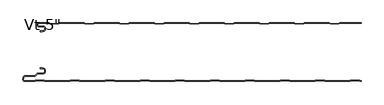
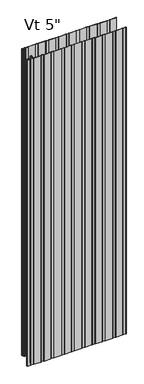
"""IFC4 building model written with IfcOpenShell, lengths in millimetres: plate geometry."""

from ifc_helpers import new_model, si_unit, point, frame, frame_2d, origin, origin_with_axes, place, context, project, spatial, polyline, circle_curve, trimmed, segment, composite_curve, outline, extrude, source, transform, mapped, element, save
from ifc_brep_helpers import plane_surface, cylinder_surface, revolved_surface, advanced_brep


def plate_ce7ed1db(model_context):
    return source(origin(), model_context, "Body", "SolidModel", [
        advanced_brep(
        [(-346.968691, -17.0015202, 2400.0), (-347.9686883, -18.0015234, 2400.0), (-346.968691, -19.0015147, 2400.0), (-342.9684874, -19.0015147, 2400.0), (-342.9684874, -18.0015202, 2400.0), (-340.2762776, -18.0015202, 2400.0), (-336.9762819, -14.7015245, 2400.0), (-336.9762819, -10.3015333, 2400.0), (-340.2762774, -7.0015378, 2400.0), (-350.6962563, -7.0015378, 2400.0), (-352.4662505, -5.2315436, 2400.0), (-352.4662505, -0.9999959, 2400.0), (-327.9659738, -0.9999959, 2400.0), (-326.5803312, -2.200235, 2400.0), (-307.2051649, -2.200235, 2400.0), (-305.819532, -1.0000043, 2400.0), (-251.7661166, -1.0000043, 2400.0), (-250.3804836, -2.200235, 2400.0), (-231.0053173, -2.200235, 2400.0), (-229.6196844, -1.0000043, 2400.0), (-175.566269, -1.0000043, 2400.0), (-174.180636, -2.200235, 2400.0), (-154.8054697, -2.200235, 2400.0), (-153.4198368, -1.0000043, 2400.0), (-99.3664214, -1.0000043, 2400.0), (-97.9807884, -2.200235, 2400.0), (-78.6056221, -2.200235, 2400.0), (-77.2199892, -1.0000043, 2400.0), (-23.1665738, -1.0000043, 2400.0), (-21.7809408, -2.200235, 2400.0), (-2.4057745, -2.200235, 2400.0), (-1.0201416, -1.0000043, 2400.0), (53.0332738, -1.0000043, 2400.0), (54.4189068, -2.200235, 2400.0), (73.7940731, -2.200235, 2400.0), (75.179706, -1.0000043, 2400.0), (129.2331214, -1.0000043, 2400.0), (130.6187544, -2.200235, 2400.0), (149.9939207, -2.200235, 2400.0), (151.3795536, -1.0000043, 2400.0), (205.432969, -1.0000043, 2400.0), (206.818602, -2.200235, 2400.0), (226.1937683, -2.200235, 2400.0), (227.5794012, -1.0000043, 2400.0), (281.6328166, -1.0000043, 2400.0), (283.0184496, -2.200235, 2400.0), (302.3936159, -2.200235, 2400.0), (303.7792488, -1.0000043, 2400.0), (350.4999998, -1.0000043, 2400.0), (350.4999998, -4.3e-06, 2400.0), (303.9284, -4.3e-06, 2400.0), (303.0117831, -0.3417928, 2400.0), (302.0207355, -1.200235, 2400.0), (283.39133, -1.200235, 2400.0), (282.4002824, -0.3417928, 2400.0), (281.4836655, -4.3e-06, 2400.0), (227.7285524, -4.3e-06, 2400.0), (226.8119355, -0.3417928, 2400.0), (225.8208879, -1.200235, 2400.0), (207.1914824, -1.200235, 2400.0), (206.2004348, -0.3417928, 2400.0), (205.2838179, -4.3e-06, 2400.0), (151.5287048, -4.3e-06, 2400.0), (150.6120879, -0.3417928, 2400.0), (149.6210403, -1.200235, 2400.0), (130.9916348, -1.200235, 2400.0), (130.0005872, -0.3417928, 2400.0), (129.0839703, -4.3e-06, 2400.0), (75.3288572, -4.3e-06, 2400.0), (74.4122403, -0.3417928, 2400.0), (73.4211927, -1.200235, 2400.0), (54.7917872, -1.200235, 2400.0), (53.8007396, -0.3417928, 2400.0), (52.8841227, -4.3e-06, 2400.0), (-0.8709904, -4.3e-06, 2400.0), (-1.7876073, -0.3417928, 2400.0), (-2.7786549, -1.200235, 2400.0), (-21.4080604, -1.200235, 2400.0), (-22.399108, -0.3417928, 2400.0), (-23.3157249, -4.3e-06, 2400.0), (-77.070838, -4.3e-06, 2400.0), (-77.9874549, -0.3417928, 2400.0), (-78.9785025, -1.200235, 2400.0), (-97.607908, -1.200235, 2400.0), (-98.5989556, -0.3417928, 2400.0), (-99.5155725, -4.3e-06, 2400.0), (-153.2706856, -4.3e-06, 2400.0), (-154.1873025, -0.3417928, 2400.0), (-155.1783501, -1.200235, 2400.0), (-173.8077556, -1.200235, 2400.0), (-174.7988032, -0.3417928, 2400.0), (-175.7154201, -4.3e-06, 2400.0), (-229.4705332, -4.3e-06, 2400.0), (-230.3871501, -0.3417928, 2400.0), (-231.3781977, -1.200235, 2400.0), (-250.0076032, -1.200235, 2400.0), (-250.9986508, -0.3417928, 2400.0), (-251.9152677, -4.3e-06, 2400.0), (-305.6703808, -4.3e-06, 2400.0), (-306.5869977, -0.3417928, 2400.0), (-307.5780453, -1.200235, 2400.0), (-326.2074508, -1.200235, 2400.0), (-327.1984984, -0.3417928, 2400.0), (-328.1152067, -4.3e-06, 2400.0), (-352.0662543, 4.1e-06, 2400.0), (-353.4662505, -1.3999921, 2400.0), (-353.4662505, -5.2315436, 2400.0), (-350.6962563, -8.0015378, 2400.0), (-340.2762774, -8.0015378, 2400.0), (-337.9762819, -10.3015333, 2400.0), (-337.9762819, -14.7015245, 2400.0), (-340.2762776, -17.0015202, 2400.0), (-346.968691, -17.0015202, 0.0), (-340.2762776, -17.0015202, 0.0), (-337.9762819, -14.7015245, 0.0), (-337.9762819, -10.3015333, 0.0), (-340.2762774, -8.0015378, 0.0), (-350.6962563, -8.0015378, 0.0), (-353.4662505, -5.2315436, 0.0), (-353.4662505, -1.3999921, 0.0), (-352.0662543, 4.1e-06, 0.0), (-328.1151153, 4.1e-06, 0.0), (-327.1984984, -0.3417928, 0.0), (-326.2074508, -1.200235, 0.0), (-307.5780453, -1.200235, 0.0), (-306.5869977, -0.3417928, 0.0), (-305.6703808, -4.3e-06, 0.0), (-251.9152677, -4.3e-06, 0.0), (-250.9986508, -0.3417928, 0.0), (-250.0076032, -1.200235, 0.0), (-231.3781977, -1.200235, 0.0), (-230.3871501, -0.3417928, 0.0), (-229.4705332, -4.3e-06, 0.0), (-175.7154201, -4.3e-06, 0.0), (-174.7988032, -0.3417928, 0.0), (-173.8077556, -1.200235, 0.0), (-155.1783501, -1.200235, 0.0), (-154.1873025, -0.3417928, 0.0), (-153.2706856, -4.3e-06, 0.0), (-99.5155725, -4.3e-06, 0.0), (-98.5989556, -0.3417928, 0.0), (-97.607908, -1.200235, 0.0), (-78.9785025, -1.200235, 0.0), (-77.9874549, -0.3417928, 0.0), (-77.070838, -4.3e-06, 0.0), (-23.3157249, -4.3e-06, 0.0), (-22.399108, -0.3417928, 0.0), (-21.4080604, -1.200235, 0.0), (-2.7786549, -1.200235, 0.0), (-1.7876073, -0.3417928, 0.0), (-0.8709904, -4.3e-06, 0.0), (52.8841227, -4.3e-06, 0.0), (53.8007396, -0.3417928, 0.0), (54.7917872, -1.200235, 0.0), (73.4211927, -1.200235, 0.0), (74.4122403, -0.3417928, 0.0), (75.3288572, -4.3e-06, 0.0), (129.0839703, -4.3e-06, 0.0), (130.0005872, -0.3417928, 0.0), (130.9916348, -1.200235, 0.0), (149.6210403, -1.200235, 0.0), (150.6120879, -0.3417928, 0.0), (151.5287048, -4.3e-06, 0.0), (205.2838179, -4.3e-06, 0.0), (206.2004348, -0.3417928, 0.0), (207.1914824, -1.200235, 0.0), (225.8208879, -1.200235, 0.0), (226.8119355, -0.3417928, 0.0), (227.7285524, -4.3e-06, 0.0), (281.4836655, -4.3e-06, 0.0), (282.4002824, -0.3417928, 0.0), (283.39133, -1.200235, 0.0), (302.0207355, -1.200235, 0.0), (303.0117831, -0.3417928, 0.0), (303.9284, -4.3e-06, 0.0), (350.4999998, -4.3e-06, 0.0), (350.4999998, -1.0000043, 0.0), (303.7792488, -1.0000043, 0.0), (302.3936159, -2.200235, 0.0), (283.0184496, -2.200235, 0.0), (281.6328166, -1.0000043, 0.0), (227.5794012, -1.0000043, 0.0), (226.1937683, -2.200235, 0.0), (206.818602, -2.200235, 0.0), (205.432969, -1.0000043, 0.0), (151.3795536, -1.0000043, 0.0), (149.9939207, -2.200235, 0.0), (130.6187544, -2.200235, 0.0), (129.2331214, -1.0000043, 0.0), (75.179706, -1.0000043, 0.0), (73.7940731, -2.200235, 0.0), (54.4189068, -2.200235, 0.0), (53.0332738, -1.0000043, 0.0), (-1.0201416, -1.0000043, 0.0), (-2.4057745, -2.200235, 0.0), (-21.7809408, -2.200235, 0.0), (-23.1665738, -1.0000043, 0.0), (-77.2199892, -1.0000043, 0.0), (-78.6056221, -2.200235, 0.0), (-97.9807884, -2.200235, 0.0), (-99.3664214, -1.0000043, 0.0), (-153.4198368, -1.0000043, 0.0), (-154.8054697, -2.200235, 0.0), (-174.180636, -2.200235, 0.0), (-175.566269, -1.0000043, 0.0), (-229.6196844, -1.0000043, 0.0), (-231.0053173, -2.200235, 0.0), (-250.3804836, -2.200235, 0.0), (-251.7661166, -1.0000043, 0.0), (-305.819532, -1.0000043, 0.0), (-307.2051649, -2.200235, 0.0), (-326.5803312, -2.200235, 0.0), (-327.9659738, -0.9999959, 0.0), (-352.4662505, -0.9999959, 0.0), (-352.4662505, -5.2315436, 0.0), (-350.6962563, -7.0015378, 0.0), (-340.2762774, -7.0015378, 0.0), (-336.9762819, -10.3015333, 0.0), (-336.9762819, -14.7015245, 0.0), (-340.2762776, -18.0015202, 0.0), (-342.9684874, -18.0015202, 0.0), (-342.9684874, -19.0015147, 0.0), (-346.968691, -19.0015147, 0.0), (-347.9686882, -18.0015235, 0.0)],
        [
            (0, 1, circle_curve(frame((-346.968691, -18.0015175, 2400.0), z_axis=(0.0, 0.0, 1.0), x_axis=(1.0, 0.0, 0.0)), 0.9999973)),
            (1, 2, circle_curve(frame((-346.968691, -18.0015175, 2400.0), z_axis=(0.0, 0.0, 1.0), x_axis=(1.0, 0.0, 0.0)), 0.9999972)),
            (2, 3),
            (3, 4),
            (4, 5),
            (5, 6, circle_curve(frame((-340.2762776, -14.7015245, 2400.0), z_axis=(0.0, 0.0, 1.0), x_axis=(1.0, 0.0, 0.0)), 3.2999957)),
            (6, 7),
            (7, 8, circle_curve(frame((-340.2762774, -10.3015333, 2400.0), z_axis=(0.0, 0.0, 1.0), x_axis=(1.0, 0.0, 0.0)), 3.2999955)),
            (8, 9),
            (9, 10, circle_curve(frame((-350.6962563, -5.2315436, 2400.0), z_axis=(0.0, 0.0, -1.0), x_axis=(1.0, 0.0, 0.0)), 1.7699942)),
            (10, 11),
            (11, 12),
            (12, 13),
            (13, 14),
            (14, 15),
            (15, 16),
            (16, 17),
            (17, 18),
            (18, 19),
            (19, 20),
            (20, 21),
            (21, 22),
            (22, 23),
            (23, 24),
            (24, 25),
            (25, 26),
            (26, 27),
            (27, 28),
            (28, 29),
            (29, 30),
            (30, 31),
            (31, 32),
            (32, 33),
            (33, 34),
            (34, 35),
            (35, 36),
            (36, 37),
            (37, 38),
            (38, 39),
            (39, 40),
            (40, 41),
            (41, 42),
            (42, 43),
            (43, 44),
            (44, 45),
            (45, 46),
            (46, 47),
            (47, 48),
            (48, 49),
            (49, 50),
            (50, 51, circle_curve(frame((303.9284, -1.4000015, 2400.0), z_axis=(0.0, 0.0, 1.0), x_axis=(1.0, 0.0, 0.0)), 1.3999972)),
            (51, 52),
            (52, 53),
            (53, 54),
            (54, 55, circle_curve(frame((281.4836655, -1.4000015, 2400.0), z_axis=(0.0, 0.0, 1.0), x_axis=(1.0, 0.0, 0.0)), 1.3999972)),
            (55, 56),
            (56, 57, circle_curve(frame((227.7285524, -1.4000015, 2400.0), z_axis=(0.0, 0.0, 1.0), x_axis=(1.0, 0.0, 0.0)), 1.3999972)),
            (57, 58),
            (58, 59),
            (59, 60),
            (60, 61, circle_curve(frame((205.2838179, -1.4000015, 2400.0), z_axis=(0.0, 0.0, 1.0), x_axis=(1.0, 0.0, 0.0)), 1.3999972)),
            (61, 62),
            (62, 63, circle_curve(frame((151.5287048, -1.4000015, 2400.0), z_axis=(0.0, 0.0, 1.0), x_axis=(1.0, 0.0, 0.0)), 1.3999972)),
            (63, 64),
            (64, 65),
            (65, 66),
            (66, 67, circle_curve(frame((129.0839703, -1.4000015, 2400.0), z_axis=(0.0, 0.0, 1.0), x_axis=(1.0, 0.0, 0.0)), 1.3999972)),
            (67, 68),
            (68, 69, circle_curve(frame((75.3288572, -1.4000015, 2400.0), z_axis=(0.0, 0.0, 1.0), x_axis=(1.0, 0.0, 0.0)), 1.3999972)),
            (69, 70),
            (70, 71),
            (71, 72),
            (72, 73, circle_curve(frame((52.8841227, -1.4000015, 2400.0), z_axis=(0.0, 0.0, 1.0), x_axis=(1.0, 0.0, 0.0)), 1.3999972)),
            (73, 74),
            (74, 75, circle_curve(frame((-0.8709904, -1.4000015, 2400.0), z_axis=(0.0, 0.0, 1.0), x_axis=(1.0, 0.0, 0.0)), 1.3999972)),
            (75, 76),
            (76, 77),
            (77, 78),
            (78, 79, circle_curve(frame((-23.3157249, -1.4000015, 2400.0), z_axis=(0.0, 0.0, 1.0), x_axis=(1.0, 0.0, 0.0)), 1.3999972)),
            (79, 80),
            (80, 81, circle_curve(frame((-77.070838, -1.4000015, 2400.0), z_axis=(0.0, 0.0, 1.0), x_axis=(1.0, 0.0, 0.0)), 1.3999972)),
            (81, 82),
            (82, 83),
            (83, 84),
            (84, 85, circle_curve(frame((-99.5155725, -1.4000015, 2400.0), z_axis=(0.0, 0.0, 1.0), x_axis=(1.0, 0.0, 0.0)), 1.3999972)),
            (85, 86),
            (86, 87, circle_curve(frame((-153.2706856, -1.4000015, 2400.0), z_axis=(0.0, 0.0, 1.0), x_axis=(1.0, 0.0, 0.0)), 1.3999972)),
            (87, 88),
            (88, 89),
            (89, 90),
            (90, 91, circle_curve(frame((-175.7154201, -1.4000015, 2400.0), z_axis=(0.0, 0.0, 1.0), x_axis=(1.0, 0.0, 0.0)), 1.3999972)),
            (91, 92),
            (92, 93, circle_curve(frame((-229.4705332, -1.4000015, 2400.0), z_axis=(0.0, 0.0, 1.0), x_axis=(1.0, 0.0, 0.0)), 1.3999972)),
            (93, 94),
            (94, 95),
            (95, 96),
            (96, 97, circle_curve(frame((-251.9152677, -1.4000015, 2400.0), z_axis=(0.0, 0.0, 1.0), x_axis=(1.0, 0.0, 0.0)), 1.3999972)),
            (97, 98),
            (98, 99, circle_curve(frame((-305.6703808, -1.4000015, 2400.0), z_axis=(0.0, 0.0, 1.0), x_axis=(1.0, 0.0, 0.0)), 1.3999972)),
            (99, 100),
            (100, 101),
            (101, 102),
            (102, 103, circle_curve(frame((-328.1151153, -1.4000015, 2400.0), z_axis=(0.0, 0.0, 1.0), x_axis=(1.0, 0.0, 0.0)), 1.3999972)),
            (103, 104),
            (104, 105, circle_curve(frame((-352.0662543, -1.3999921, 2400.0), z_axis=(0.0, 0.0, 1.0), x_axis=(1.0, 0.0, 0.0)), 1.3999962)),
            (105, 106),
            (106, 107, circle_curve(frame((-350.6962563, -5.2315436, 2400.0), z_axis=(0.0, 0.0, 1.0), x_axis=(1.0, 0.0, 0.0)), 2.7699942)),
            (107, 108),
            (108, 109, circle_curve(frame((-340.2762774, -10.3015333, 2400.0), z_axis=(0.0, 0.0, -1.0), x_axis=(1.0, 0.0, 0.0)), 2.2999955)),
            (109, 110),
            (110, 111, circle_curve(frame((-340.2762776, -14.7015245, 2400.0), z_axis=(0.0, 0.0, -1.0), x_axis=(1.0, 0.0, 0.0)), 2.2999957)),
            (111, 0),
            (112, 113),
            (113, 114, circle_curve(frame((-340.2762776, -14.7015245, 0.0), z_axis=(0.0, 0.0, 1.0), x_axis=(1.0, 0.0, 0.0)), 2.2999957)),
            (114, 115),
            (115, 116, circle_curve(frame((-340.2762774, -10.3015333, 0.0), z_axis=(0.0, 0.0, 1.0), x_axis=(1.0, 0.0, 0.0)), 2.2999955)),
            (116, 117),
            (117, 118, circle_curve(frame((-350.6962563, -5.2315436, 0.0), z_axis=(0.0, 0.0, -1.0), x_axis=(1.0, 0.0, 0.0)), 2.7699942)),
            (118, 119),
            (119, 120, circle_curve(frame((-352.0662543, -1.3999921, 0.0), z_axis=(0.0, 0.0, -1.0), x_axis=(1.0, 0.0, 0.0)), 1.3999962)),
            (120, 121),
            (121, 122, circle_curve(frame((-328.1151153, -1.4000015, 0.0), z_axis=(0.0, 0.0, -1.0), x_axis=(1.0, 0.0, 0.0)), 1.3999972)),
            (122, 123),
            (123, 124),
            (124, 125),
            (125, 126, circle_curve(frame((-305.6703808, -1.4000015, 0.0), z_axis=(0.0, 0.0, -1.0), x_axis=(1.0, 0.0, 0.0)), 1.3999972)),
            (126, 127),
            (127, 128, circle_curve(frame((-251.9152677, -1.4000015, 0.0), z_axis=(0.0, 0.0, -1.0), x_axis=(1.0, 0.0, 0.0)), 1.3999972)),
            (128, 129),
            (129, 130),
            (130, 131),
            (131, 132, circle_curve(frame((-229.4705332, -1.4000015, 0.0), z_axis=(0.0, 0.0, -1.0), x_axis=(1.0, 0.0, 0.0)), 1.3999972)),
            (132, 133),
            (133, 134, circle_curve(frame((-175.7154201, -1.4000015, 0.0), z_axis=(0.0, 0.0, -1.0), x_axis=(1.0, 0.0, 0.0)), 1.3999972)),
            (134, 135),
            (135, 136),
            (136, 137),
            (137, 138, circle_curve(frame((-153.2706856, -1.4000015, 0.0), z_axis=(0.0, 0.0, -1.0), x_axis=(1.0, 0.0, 0.0)), 1.3999972)),
            (138, 139),
            (139, 140, circle_curve(frame((-99.5155725, -1.4000015, 0.0), z_axis=(0.0, 0.0, -1.0), x_axis=(1.0, 0.0, 0.0)), 1.3999972)),
            (140, 141),
            (141, 142),
            (142, 143),
            (143, 144, circle_curve(frame((-77.070838, -1.4000015, 0.0), z_axis=(0.0, 0.0, -1.0), x_axis=(1.0, 0.0, 0.0)), 1.3999972)),
            (144, 145),
            (145, 146, circle_curve(frame((-23.3157249, -1.4000015, 0.0), z_axis=(0.0, 0.0, -1.0), x_axis=(1.0, 0.0, 0.0)), 1.3999972)),
            (146, 147),
            (147, 148),
            (148, 149),
            (149, 150, circle_curve(frame((-0.8709904, -1.4000015, 0.0), z_axis=(0.0, 0.0, -1.0), x_axis=(1.0, 0.0, 0.0)), 1.3999972)),
            (150, 151),
            (151, 152, circle_curve(frame((52.8841227, -1.4000015, 0.0), z_axis=(0.0, 0.0, -1.0), x_axis=(1.0, 0.0, 0.0)), 1.3999972)),
            (152, 153),
            (153, 154),
            (154, 155),
            (155, 156, circle_curve(frame((75.3288572, -1.4000015, 0.0), z_axis=(0.0, 0.0, -1.0), x_axis=(1.0, 0.0, 0.0)), 1.3999972)),
            (156, 157),
            (157, 158, circle_curve(frame((129.0839703, -1.4000015, 0.0), z_axis=(0.0, 0.0, -1.0), x_axis=(1.0, 0.0, 0.0)), 1.3999972)),
            (158, 159),
            (159, 160),
            (160, 161),
            (161, 162, circle_curve(frame((151.5287048, -1.4000015, 0.0), z_axis=(0.0, 0.0, -1.0), x_axis=(1.0, 0.0, 0.0)), 1.3999972)),
            (162, 163),
            (163, 164, circle_curve(frame((205.2838179, -1.4000015, 0.0), z_axis=(0.0, 0.0, -1.0), x_axis=(1.0, 0.0, 0.0)), 1.3999972)),
            (164, 165),
            (165, 166),
            (166, 167),
            (167, 168, circle_curve(frame((227.7285524, -1.4000015, 0.0), z_axis=(0.0, 0.0, -1.0), x_axis=(1.0, 0.0, 0.0)), 1.3999972)),
            (168, 169),
            (169, 170, circle_curve(frame((281.4836655, -1.4000015, 0.0), z_axis=(0.0, 0.0, -1.0), x_axis=(1.0, 0.0, 0.0)), 1.3999972)),
            (170, 171),
            (171, 172),
            (172, 173),
            (173, 174, circle_curve(frame((303.9284, -1.4000015, 0.0), z_axis=(0.0, 0.0, -1.0), x_axis=(1.0, 0.0, 0.0)), 1.3999972)),
            (174, 175),
            (175, 176),
            (176, 177),
            (177, 178),
            (178, 179),
            (179, 180),
            (180, 181),
            (181, 182),
            (182, 183),
            (183, 184),
            (184, 185),
            (185, 186),
            (186, 187),
            (187, 188),
            (188, 189),
            (189, 190),
            (190, 191),
            (191, 192),
            (192, 193),
            (193, 194),
            (194, 195),
            (195, 196),
            (196, 197),
            (197, 198),
            (198, 199),
            (199, 200),
            (200, 201),
            (201, 202),
            (202, 203),
            (203, 204),
            (204, 205),
            (205, 206),
            (206, 207),
            (207, 208),
            (208, 209),
            (209, 210),
            (210, 211),
            (211, 212),
            (212, 213),
            (213, 214),
            (214, 215, circle_curve(frame((-350.6962563, -5.2315436, 0.0), z_axis=(0.0, 0.0, 1.0), x_axis=(1.0, 0.0, 0.0)), 1.7699942)),
            (215, 216),
            (216, 217, circle_curve(frame((-340.2762774, -10.3015333, 0.0), z_axis=(0.0, 0.0, -1.0), x_axis=(1.0, 0.0, 0.0)), 3.2999955)),
            (217, 218),
            (218, 219, circle_curve(frame((-340.2762776, -14.7015245, 0.0), z_axis=(0.0, 0.0, -1.0), x_axis=(1.0, 0.0, 0.0)), 3.2999957)),
            (219, 220),
            (220, 221),
            (221, 222),
            (222, 223, circle_curve(frame((-346.968691, -18.0015175, 0.0), z_axis=(0.0, 0.0, -1.0), x_axis=(1.0, 0.0, 0.0)), 0.9999972)),
            (223, 112, circle_curve(frame((-346.968691, -18.0015175, 0.0), z_axis=(0.0, 0.0, -1.0), x_axis=(1.0, 0.0, 0.0)), 0.9999973)),
            (111, 113),
            (112, 0),
            (110, 114),
            (109, 115),
            (108, 116),
            (107, 117),
            (106, 118),
            (105, 119),
            (104, 120),
            (103, 121),
            (102, 122),
            (101, 123),
            (100, 124),
            (99, 125),
            (98, 126),
            (97, 127),
            (96, 128),
            (95, 129),
            (94, 130),
            (93, 131),
            (92, 132),
            (91, 133),
            (90, 134),
            (89, 135),
            (88, 136),
            (87, 137),
            (86, 138),
            (85, 139),
            (84, 140),
            (83, 141),
            (82, 142),
            (81, 143),
            (80, 144),
            (79, 145),
            (78, 146),
            (77, 147),
            (76, 148),
            (75, 149),
            (74, 150),
            (73, 151),
            (72, 152),
            (71, 153),
            (70, 154),
            (69, 155),
            (68, 156),
            (67, 157),
            (66, 158),
            (65, 159),
            (64, 160),
            (63, 161),
            (62, 162),
            (61, 163),
            (39, 185),
            (184, 40),
            (38, 186),
            (37, 187),
            (36, 188),
            (35, 189),
            (34, 190),
            (33, 191),
            (32, 192),
            (31, 193),
            (30, 194),
            (29, 195),
            (28, 196),
            (27, 197),
            (26, 198),
            (25, 199),
            (24, 200),
            (23, 201),
            (22, 202),
            (21, 203),
            (20, 204),
            (19, 205),
            (18, 206),
            (17, 207),
            (16, 208),
            (15, 209),
            (14, 210),
            (13, 211),
            (12, 212),
            (11, 213),
            (10, 214),
            (9, 215),
            (8, 216),
            (7, 217),
            (6, 218),
            (5, 219),
            (4, 220),
            (3, 221),
            (2, 222),
            (1, 223),
            (48, 176),
            (175, 49),
            (60, 164),
            (59, 165),
            (58, 166),
            (57, 167),
            (56, 168),
            (55, 169),
            (54, 170),
            (53, 171),
            (52, 172),
            (51, 173),
            (50, 174),
            (47, 177),
            (46, 178),
            (45, 179),
            (44, 180),
            (43, 181),
            (42, 182),
            (41, 183),
        ],
        [
            plane_surface(frame((32.0000002, -4.3e-06, 2400.0), z_axis=(0.0, 0.0, 1.0), x_axis=(0.0, 1.0, 0.0))),
            plane_surface(frame((32.0000002, -4.3e-06, 0.0), z_axis=(0.0, 0.0, -1.0), x_axis=(0.0, 1.0, 0.0))),
            plane_surface(frame((-346.968691, -17.0015202, 2400.0), z_axis=(0.0, 1.0, 0.0), x_axis=(0.0, 0.0, -1.0))),
            revolved_surface(polyline([(-337.9762819, -14.7015245, 0.0), (-337.9762819, -14.7015245, 2400.0)]), (-340.2762776, -14.7015245, 2400.0), (0.0, 0.0, -1.0)),
            plane_surface(frame((-337.9762819, -14.7015245, 2400.0), z_axis=(-1.0, 0.0, 0.0), x_axis=(0.0, 0.0, -1.0))),
            revolved_surface(polyline([(-337.9762819, -10.3015333, 0.0), (-337.9762819, -10.3015333, 2400.0)]), (-340.2762774, -10.3015333, 2400.0), (0.0, 0.0, -1.0)),
            plane_surface(frame((-340.2762774, -8.0015378, 2400.0), z_axis=(0.0, -1.0, 0.0), x_axis=(0.0, 0.0, -1.0))),
            cylinder_surface(frame((-350.6962563, -5.2315436, 2400.0), z_axis=(0.0, 0.0, 1.0), x_axis=(1.0, 0.0, 0.0)), 2.7699942),
            plane_surface(frame((-353.4662505, -5.2315436, 2400.0), z_axis=(-1.0, 0.0, 0.0), x_axis=(0.0, 0.0, -1.0))),
            cylinder_surface(frame((-352.0662543, -1.3999921, 2400.0), z_axis=(0.0, 0.0, 1.0), x_axis=(1.0, 0.0, 0.0)), 1.3999962),
            plane_surface(frame((-352.0662543, 4.1e-06, 2400.0), z_axis=(0.0, 1.0, 0.0), x_axis=(0.0, 0.0, -1.0))),
            cylinder_surface(frame((-328.1151153, -1.4000015, 2400.0), z_axis=(0.0, 0.0, 1.0), x_axis=(1.0, 0.0, 0.0)), 1.3999972),
            plane_surface(frame((-327.1984984, -0.3417928, 2400.0), z_axis=(0.6547276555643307, 0.7558648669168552, 0.0), x_axis=(0.0, 0.0, -1.0))),
            plane_surface(frame((-316.8927481, -1.200235, 2400.0), z_axis=(0.0, 1.0, 0.0), x_axis=(0.0, 0.0, -1.0))),
            plane_surface(frame((-307.5780453, -1.200235, 2400.0), z_axis=(-0.6547276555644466, 0.7558648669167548, 0.0), x_axis=(0.0, 0.0, -1.0))),
            cylinder_surface(frame((-305.6703808, -1.4000015, 2400.0), z_axis=(0.0, 0.0, 1.0), x_axis=(1.0, 0.0, 0.0)), 1.3999972),
            plane_surface(frame((-305.6703808, -4.3e-06, 2400.0), z_axis=(0.0, 1.0, 0.0), x_axis=(0.0, 0.0, -1.0))),
            cylinder_surface(frame((-251.9152677, -1.4000015, 2400.0), z_axis=(0.0, 0.0, 1.0), x_axis=(1.0, 0.0, 0.0)), 1.3999972),
            plane_surface(frame((-250.9986508, -0.3417928, 2400.0), z_axis=(0.6547276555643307, 0.7558648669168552, 0.0), x_axis=(0.0, 0.0, -1.0))),
            plane_surface(frame((-240.6929005, -1.200235, 2400.0), z_axis=(0.0, 1.0, 0.0), x_axis=(0.0, 0.0, -1.0))),
            plane_surface(frame((-231.3781977, -1.200235, 2400.0), z_axis=(-0.6547276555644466, 0.7558648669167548, 0.0), x_axis=(0.0, 0.0, -1.0))),
            cylinder_surface(frame((-229.4705332, -1.4000015, 2400.0), z_axis=(0.0, 0.0, 1.0), x_axis=(1.0, 0.0, 0.0)), 1.3999972),
            plane_surface(frame((-229.4705332, -4.3e-06, 2400.0), z_axis=(0.0, 1.0, 0.0), x_axis=(0.0, 0.0, -1.0))),
            cylinder_surface(frame((-175.7154201, -1.4000015, 2400.0), z_axis=(0.0, 0.0, 1.0), x_axis=(1.0, 0.0, 0.0)), 1.3999972),
            plane_surface(frame((-174.7988032, -0.3417928, 2400.0), z_axis=(0.6547276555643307, 0.7558648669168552, 0.0), x_axis=(0.0, 0.0, -1.0))),
            plane_surface(frame((-164.4930529, -1.200235, 2400.0), z_axis=(0.0, 1.0, 0.0), x_axis=(0.0, 0.0, -1.0))),
            plane_surface(frame((-155.1783501, -1.200235, 2400.0), z_axis=(-0.6547276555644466, 0.7558648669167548, 0.0), x_axis=(0.0, 0.0, -1.0))),
            cylinder_surface(frame((-153.2706856, -1.4000015, 2400.0), z_axis=(0.0, 0.0, 1.0), x_axis=(1.0, 0.0, 0.0)), 1.3999972),
            plane_surface(frame((-153.2706856, -4.3e-06, 2400.0), z_axis=(0.0, 1.0, 0.0), x_axis=(0.0, 0.0, -1.0))),
            cylinder_surface(frame((-99.5155725, -1.4000015, 2400.0), z_axis=(0.0, 0.0, 1.0), x_axis=(1.0, 0.0, 0.0)), 1.3999972),
            plane_surface(frame((-98.5989556, -0.3417928, 2400.0), z_axis=(0.6547276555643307, 0.7558648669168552, 0.0), x_axis=(0.0, 0.0, -1.0))),
            plane_surface(frame((-88.2932053, -1.200235, 2400.0), z_axis=(0.0, 1.0, 0.0), x_axis=(0.0, 0.0, -1.0))),
            plane_surface(frame((-78.9785025, -1.200235, 2400.0), z_axis=(-0.6547276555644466, 0.7558648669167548, 0.0), x_axis=(0.0, 0.0, -1.0))),
            cylinder_surface(frame((-77.070838, -1.4000015, 2400.0), z_axis=(0.0, 0.0, 1.0), x_axis=(1.0, 0.0, 0.0)), 1.3999972),
            plane_surface(frame((-77.070838, -4.3e-06, 2400.0), z_axis=(0.0, 1.0, 0.0), x_axis=(0.0, 0.0, -1.0))),
            cylinder_surface(frame((-23.3157249, -1.4000015, 2400.0), z_axis=(0.0, 0.0, 1.0), x_axis=(1.0, 0.0, 0.0)), 1.3999972),
            plane_surface(frame((-22.399108, -0.3417928, 2400.0), z_axis=(0.6547276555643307, 0.7558648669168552, 0.0), x_axis=(0.0, 0.0, -1.0))),
            plane_surface(frame((-12.0933577, -1.200235, 2400.0), z_axis=(0.0, 1.0, 0.0), x_axis=(0.0, 0.0, -1.0))),
            plane_surface(frame((-2.7786549, -1.200235, 2400.0), z_axis=(-0.6547276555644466, 0.7558648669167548, 0.0), x_axis=(0.0, 0.0, -1.0))),
            cylinder_surface(frame((-0.8709904, -1.4000015, 2400.0), z_axis=(0.0, 0.0, 1.0), x_axis=(1.0, 0.0, 0.0)), 1.3999972),
            plane_surface(frame((-0.8709904, -4.3e-06, 2400.0), z_axis=(0.0, 1.0, 0.0), x_axis=(0.0, 0.0, -1.0))),
            cylinder_surface(frame((52.8841227, -1.4000015, 2400.0), z_axis=(0.0, 0.0, 1.0), x_axis=(1.0, 0.0, 0.0)), 1.3999972),
            plane_surface(frame((53.8007396, -0.3417928, 2400.0), z_axis=(0.6547276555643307, 0.7558648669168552, 0.0), x_axis=(0.0, 0.0, -1.0))),
            plane_surface(frame((64.1064899, -1.200235, 2400.0), z_axis=(0.0, 1.0, 0.0), x_axis=(0.0, 0.0, -1.0))),
            plane_surface(frame((73.4211927, -1.200235, 2400.0), z_axis=(-0.6547276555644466, 0.7558648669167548, 0.0), x_axis=(0.0, 0.0, -1.0))),
            cylinder_surface(frame((75.3288572, -1.4000015, 2400.0), z_axis=(0.0, 0.0, 1.0), x_axis=(1.0, 0.0, 0.0)), 1.3999972),
            plane_surface(frame((75.3288572, -4.3e-06, 2400.0), z_axis=(0.0, 1.0, 0.0), x_axis=(0.0, 0.0, -1.0))),
            cylinder_surface(frame((129.0839703, -1.4000015, 2400.0), z_axis=(0.0, 0.0, 1.0), x_axis=(1.0, 0.0, 0.0)), 1.3999972),
            plane_surface(frame((130.0005872, -0.3417928, 2400.0), z_axis=(0.6547276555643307, 0.7558648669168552, 0.0), x_axis=(0.0, 0.0, -1.0))),
            plane_surface(frame((140.3063375, -1.200235, 2400.0), z_axis=(0.0, 1.0, 0.0), x_axis=(0.0, 0.0, -1.0))),
            plane_surface(frame((149.6210403, -1.200235, 2400.0), z_axis=(-0.6547276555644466, 0.7558648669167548, 0.0), x_axis=(0.0, 0.0, -1.0))),
            cylinder_surface(frame((151.5287048, -1.4000015, 2400.0), z_axis=(0.0, 0.0, 1.0), x_axis=(1.0, 0.0, 0.0)), 1.3999972),
            plane_surface(frame((151.5287048, -4.3e-06, 2400.0), z_axis=(0.0, 1.0, 0.0), x_axis=(0.0, 0.0, -1.0))),
            plane_surface(frame((205.432969, -1.0000043, 2400.0), z_axis=(0.0, -1.0, 0.0), x_axis=(0.0, 0.0, -1.0))),
            plane_surface(frame((151.3795536, -1.0000043, 2400.0), z_axis=(0.6547276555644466, -0.7558648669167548, 0.0), x_axis=(0.0, 0.0, -1.0))),
            plane_surface(frame((149.9939207, -2.200235, 2400.0), z_axis=(0.0, -1.0, 0.0), x_axis=(0.0, 0.0, -1.0))),
            plane_surface(frame((130.6187544, -2.200235, 2400.0), z_axis=(-0.6547276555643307, -0.7558648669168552, 0.0), x_axis=(0.0, 0.0, -1.0))),
            plane_surface(frame((129.2331214, -1.0000043, 2400.0), z_axis=(0.0, -1.0, 0.0), x_axis=(0.0, 0.0, -1.0))),
            plane_surface(frame((75.179706, -1.0000043, 2400.0), z_axis=(0.6547276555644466, -0.7558648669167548, 0.0), x_axis=(0.0, 0.0, -1.0))),
            plane_surface(frame((73.7940731, -2.200235, 2400.0), z_axis=(0.0, -1.0, 0.0), x_axis=(0.0, 0.0, -1.0))),
            plane_surface(frame((54.4189068, -2.200235, 2400.0), z_axis=(-0.6547276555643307, -0.7558648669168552, 0.0), x_axis=(0.0, 0.0, -1.0))),
            plane_surface(frame((53.0332738, -1.0000043, 2400.0), z_axis=(0.0, -1.0, 0.0), x_axis=(0.0, 0.0, -1.0))),
            plane_surface(frame((-1.0201416, -1.0000043, 2400.0), z_axis=(0.6547276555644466, -0.7558648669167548, 0.0), x_axis=(0.0, 0.0, -1.0))),
            plane_surface(frame((-2.4057745, -2.200235, 2400.0), z_axis=(0.0, -1.0, 0.0), x_axis=(0.0, 0.0, -1.0))),
            plane_surface(frame((-21.7809408, -2.200235, 2400.0), z_axis=(-0.6547276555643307, -0.7558648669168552, 0.0), x_axis=(0.0, 0.0, -1.0))),
            plane_surface(frame((-23.1665738, -1.0000043, 2400.0), z_axis=(0.0, -1.0, 0.0), x_axis=(0.0, 0.0, -1.0))),
            plane_surface(frame((-77.2199892, -1.0000043, 2400.0), z_axis=(0.6547276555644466, -0.7558648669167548, 0.0), x_axis=(0.0, 0.0, -1.0))),
            plane_surface(frame((-78.6056221, -2.200235, 2400.0), z_axis=(0.0, -1.0, 0.0), x_axis=(0.0, 0.0, -1.0))),
            plane_surface(frame((-97.9807884, -2.200235, 2400.0), z_axis=(-0.6547276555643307, -0.7558648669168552, 0.0), x_axis=(0.0, 0.0, -1.0))),
            plane_surface(frame((-99.3664214, -1.0000043, 2400.0), z_axis=(0.0, -1.0, 0.0), x_axis=(0.0, 0.0, -1.0))),
            plane_surface(frame((-153.4198368, -1.0000043, 2400.0), z_axis=(0.6547276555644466, -0.7558648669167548, 0.0), x_axis=(0.0, 0.0, -1.0))),
            plane_surface(frame((-154.8054697, -2.200235, 2400.0), z_axis=(0.0, -1.0, 0.0), x_axis=(0.0, 0.0, -1.0))),
            plane_surface(frame((-174.180636, -2.200235, 2400.0), z_axis=(-0.6547276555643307, -0.7558648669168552, 0.0), x_axis=(0.0, 0.0, -1.0))),
            plane_surface(frame((-175.566269, -1.0000043, 2400.0), z_axis=(0.0, -1.0, 0.0), x_axis=(0.0, 0.0, -1.0))),
            plane_surface(frame((-229.6196844, -1.0000043, 2400.0), z_axis=(0.6547276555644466, -0.7558648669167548, 0.0), x_axis=(0.0, 0.0, -1.0))),
            plane_surface(frame((-231.0053173, -2.200235, 2400.0), z_axis=(0.0, -1.0, 0.0), x_axis=(0.0, 0.0, -1.0))),
            plane_surface(frame((-250.3804836, -2.200235, 2400.0), z_axis=(-0.6547276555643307, -0.7558648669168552, 0.0), x_axis=(0.0, 0.0, -1.0))),
            plane_surface(frame((-251.7661166, -1.0000043, 2400.0), z_axis=(0.0, -1.0, 0.0), x_axis=(0.0, 0.0, -1.0))),
            plane_surface(frame((-305.819532, -1.0000043, 2400.0), z_axis=(0.6547276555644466, -0.7558648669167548, 0.0), x_axis=(0.0, 0.0, -1.0))),
            plane_surface(frame((-307.2051649, -2.200235, 2400.0), z_axis=(0.0, -1.0, 0.0), x_axis=(0.0, 0.0, -1.0))),
            plane_surface(frame((-326.5803312, -2.200235, 2400.0), z_axis=(-0.6547276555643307, -0.7558648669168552, 0.0), x_axis=(0.0, 0.0, -1.0))),
            plane_surface(frame((-327.9659738, -0.9999959, 2400.0), z_axis=(0.0, -1.0, 0.0), x_axis=(0.0, 0.0, -1.0))),
            plane_surface(frame((-352.4662505, -0.9999959, 2400.0), z_axis=(1.0, 0.0, 0.0), x_axis=(0.0, 0.0, -1.0))),
            revolved_surface(polyline([(-348.92626210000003, -5.2315436, 0.0), (-348.92626210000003, -5.2315436, 2400.0)]), (-350.6962563, -5.2315436, 2400.0), (0.0, 0.0, -1.0)),
            plane_surface(frame((-350.6962563, -7.0015378, 2400.0), z_axis=(0.0, 1.0, 0.0), x_axis=(0.0, 0.0, -1.0))),
            cylinder_surface(frame((-340.2762774, -10.3015333, 2400.0), z_axis=(0.0, 0.0, 1.0), x_axis=(1.0, 0.0, 0.0)), 3.2999955),
            plane_surface(frame((-336.9762819, -10.3015333, 2400.0), z_axis=(1.0, 0.0, 0.0), x_axis=(0.0, 0.0, -1.0))),
            cylinder_surface(frame((-340.2762776, -14.7015245, 2400.0), z_axis=(0.0, 0.0, 1.0), x_axis=(1.0, 0.0, 0.0)), 3.2999957),
            plane_surface(frame((-340.2762776, -18.0015202, 2400.0), z_axis=(0.0, -1.0, 0.0), x_axis=(0.0, 0.0, -1.0))),
            plane_surface(frame((-342.9684874, -18.0015202, 2400.0), z_axis=(1.0, 0.0, 0.0), x_axis=(0.0, 0.0, -1.0))),
            plane_surface(frame((-342.9684874, -19.0015147, 2400.0), z_axis=(0.0, -1.0, 0.0), x_axis=(0.0, 0.0, -1.0))),
            cylinder_surface(frame((-346.968691, -18.0015175, 2400.0), z_axis=(0.0, 0.0, 1.0), x_axis=(1.0, 0.0, 0.0)), 0.9999972),
            cylinder_surface(frame((-346.968691, -18.0015175, 2400.0), z_axis=(0.0, 0.0, 1.0), x_axis=(1.0, 0.0, 0.0)), 0.9999973),
            plane_surface(frame((350.4999998, -137.0000043, 2400.0), z_axis=(1.0, 0.0, 0.0), x_axis=(0.0, 0.0, -1.0))),
            cylinder_surface(frame((205.2838179, -1.4000015, 2400.0), z_axis=(0.0, 0.0, 1.0), x_axis=(1.0, 0.0, 0.0)), 1.3999972),
            plane_surface(frame((206.2004348, -0.3417928, 2400.0), z_axis=(0.6547276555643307, 0.7558648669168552, 0.0), x_axis=(0.0, 0.0, -1.0))),
            plane_surface(frame((216.5061851, -1.200235, 2400.0), z_axis=(0.0, 1.0, 0.0), x_axis=(0.0, 0.0, -1.0))),
            plane_surface(frame((225.8208879, -1.200235, 2400.0), z_axis=(-0.6547276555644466, 0.7558648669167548, 0.0), x_axis=(0.0, 0.0, -1.0))),
            cylinder_surface(frame((227.7285524, -1.4000015, 2400.0), z_axis=(0.0, 0.0, 1.0), x_axis=(1.0, 0.0, 0.0)), 1.3999972),
            plane_surface(frame((227.7285524, -4.3e-06, 2400.0), z_axis=(0.0, 1.0, 0.0), x_axis=(0.0, 0.0, -1.0))),
            cylinder_surface(frame((281.4836655, -1.4000015, 2400.0), z_axis=(0.0, 0.0, 1.0), x_axis=(1.0, 0.0, 0.0)), 1.3999972),
            plane_surface(frame((282.4002824, -0.3417928, 2400.0), z_axis=(0.6547276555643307, 0.7558648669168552, 0.0), x_axis=(0.0, 0.0, -1.0))),
            plane_surface(frame((292.7060327, -1.200235, 2400.0), z_axis=(0.0, 1.0, 0.0), x_axis=(0.0, 0.0, -1.0))),
            plane_surface(frame((302.0207355, -1.200235, 2400.0), z_axis=(-0.6547276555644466, 0.7558648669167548, 0.0), x_axis=(0.0, 0.0, -1.0))),
            cylinder_surface(frame((303.9284, -1.4000015, 2400.0), z_axis=(0.0, 0.0, 1.0), x_axis=(1.0, 0.0, 0.0)), 1.3999972),
            plane_surface(frame((303.9284, -4.3e-06, 2400.0), z_axis=(0.0, 1.0, 0.0), x_axis=(0.0, 0.0, -1.0))),
            plane_surface(frame((357.8326642, -1.0000043, 2400.0), z_axis=(0.0, -1.0, 0.0), x_axis=(0.0, 0.0, -1.0))),
            plane_surface(frame((303.7792488, -1.0000043, 2400.0), z_axis=(0.6547276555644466, -0.7558648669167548, 0.0), x_axis=(0.0, 0.0, -1.0))),
            plane_surface(frame((302.3936159, -2.200235, 2400.0), z_axis=(0.0, -1.0, 0.0), x_axis=(0.0, 0.0, -1.0))),
            plane_surface(frame((283.0184496, -2.200235, 2400.0), z_axis=(-0.6547276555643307, -0.7558648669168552, 0.0), x_axis=(0.0, 0.0, -1.0))),
            plane_surface(frame((281.6328166, -1.0000043, 2400.0), z_axis=(0.0, -1.0, 0.0), x_axis=(0.0, 0.0, -1.0))),
            plane_surface(frame((227.5794012, -1.0000043, 2400.0), z_axis=(0.6547276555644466, -0.7558648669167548, 0.0), x_axis=(0.0, 0.0, -1.0))),
            plane_surface(frame((226.1937683, -2.200235, 2400.0), z_axis=(0.0, -1.0, 0.0), x_axis=(0.0, 0.0, -1.0))),
            plane_surface(frame((206.818602, -2.200235, 2400.0), z_axis=(-0.6547276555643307, -0.7558648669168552, 0.0), x_axis=(0.0, 0.0, -1.0))),
        ],
        [
            (0, [[1, 2, 3, 4, 5, 6, 7, 8, 9, 10, 11, 12, 13, 14, 15, 16, 17, 18, 19, 20, 21, 22, 23, 24, 25, 26, 27, 28, 29, 30, 31, 32, 33, 34, 35, 36, 37, 38, 39, 40, 41, 42, 43, 44, 45, 46, 47, 48, 49, 50, 51, 52, 53, 54, 55, 56, 57, 58, 59, 60, 61, 62, 63, 64, 65, 66, 67, 68, 69, 70, 71, 72, 73, 74, 75, 76, 77, 78, 79, 80, 81, 82, 83, 84, 85, 86, 87, 88, 89, 90, 91, 92, 93, 94, 95, 96, 97, 98, 99, 100, 101, 102, 103, 104, 105, 106, 107, 108, 109, 110, 111, 112]]),
            (1, [[113, 114, 115, 116, 117, 118, 119, 120, 121, 122, 123, 124, 125, 126, 127, 128, 129, 130, 131, 132, 133, 134, 135, 136, 137, 138, 139, 140, 141, 142, 143, 144, 145, 146, 147, 148, 149, 150, 151, 152, 153, 154, 155, 156, 157, 158, 159, 160, 161, 162, 163, 164, 165, 166, 167, 168, 169, 170, 171, 172, 173, 174, 175, 176, 177, 178, 179, 180, 181, 182, 183, 184, 185, 186, 187, 188, 189, 190, 191, 192, 193, 194, 195, 196, 197, 198, 199, 200, 201, 202, 203, 204, 205, 206, 207, 208, 209, 210, 211, 212, 213, 214, 215, 216, 217, 218, 219, 220, 221, 222, 223, 224]]),
            (2, [[225, -113, 226, -112]]),
            (3, [[227, -114, -225, -111]]),
            (4, [[228, -115, -227, -110]]),
            (5, [[229, -116, -228, -109]]),
            (6, [[230, -117, -229, -108]]),
            (7, [[231, -118, -230, -107]]),
            (8, [[232, -119, -231, -106]]),
            (9, [[233, -120, -232, -105]]),
            (10, [[234, -121, -233, -104]]),
            (11, [[235, -122, -234, -103]]),
            (12, [[236, -123, -235, -102]]),
            (13, [[237, -124, -236, -101]]),
            (14, [[238, -125, -237, -100]]),
            (15, [[239, -126, -238, -99]]),
            (16, [[240, -127, -239, -98]]),
            (17, [[241, -128, -240, -97]]),
            (18, [[242, -129, -241, -96]]),
            (19, [[243, -130, -242, -95]]),
            (20, [[244, -131, -243, -94]]),
            (21, [[245, -132, -244, -93]]),
            (22, [[246, -133, -245, -92]]),
            (23, [[247, -134, -246, -91]]),
            (24, [[248, -135, -247, -90]]),
            (25, [[249, -136, -248, -89]]),
            (26, [[250, -137, -249, -88]]),
            (27, [[251, -138, -250, -87]]),
            (28, [[252, -139, -251, -86]]),
            (29, [[253, -140, -252, -85]]),
            (30, [[254, -141, -253, -84]]),
            (31, [[255, -142, -254, -83]]),
            (32, [[256, -143, -255, -82]]),
            (33, [[257, -144, -256, -81]]),
            (34, [[258, -145, -257, -80]]),
            (35, [[259, -146, -258, -79]]),
            (36, [[260, -147, -259, -78]]),
            (37, [[261, -148, -260, -77]]),
            (38, [[262, -149, -261, -76]]),
            (39, [[263, -150, -262, -75]]),
            (40, [[264, -151, -263, -74]]),
            (41, [[265, -152, -264, -73]]),
            (42, [[266, -153, -265, -72]]),
            (43, [[267, -154, -266, -71]]),
            (44, [[268, -155, -267, -70]]),
            (45, [[269, -156, -268, -69]]),
            (46, [[270, -157, -269, -68]]),
            (47, [[271, -158, -270, -67]]),
            (48, [[272, -159, -271, -66]]),
            (49, [[273, -160, -272, -65]]),
            (50, [[274, -161, -273, -64]]),
            (51, [[275, -162, -274, -63]]),
            (52, [[276, -163, -275, -62]]),
            (53, [[277, -185, 278, -40]]),
            (54, [[279, -186, -277, -39]]),
            (55, [[280, -187, -279, -38]]),
            (56, [[281, -188, -280, -37]]),
            (57, [[282, -189, -281, -36]]),
            (58, [[283, -190, -282, -35]]),
            (59, [[284, -191, -283, -34]]),
            (60, [[285, -192, -284, -33]]),
            (61, [[286, -193, -285, -32]]),
            (62, [[287, -194, -286, -31]]),
            (63, [[288, -195, -287, -30]]),
            (64, [[289, -196, -288, -29]]),
            (65, [[290, -197, -289, -28]]),
            (66, [[291, -198, -290, -27]]),
            (67, [[292, -199, -291, -26]]),
            (68, [[293, -200, -292, -25]]),
            (69, [[294, -201, -293, -24]]),
            (70, [[295, -202, -294, -23]]),
            (71, [[296, -203, -295, -22]]),
            (72, [[297, -204, -296, -21]]),
            (73, [[298, -205, -297, -20]]),
            (74, [[299, -206, -298, -19]]),
            (75, [[300, -207, -299, -18]]),
            (76, [[301, -208, -300, -17]]),
            (77, [[302, -209, -301, -16]]),
            (78, [[303, -210, -302, -15]]),
            (79, [[304, -211, -303, -14]]),
            (80, [[305, -212, -304, -13]]),
            (81, [[306, -213, -305, -12]]),
            (82, [[307, -214, -306, -11]]),
            (83, [[308, -215, -307, -10]]),
            (84, [[309, -216, -308, -9]]),
            (85, [[310, -217, -309, -8]]),
            (86, [[311, -218, -310, -7]]),
            (87, [[312, -219, -311, -6]]),
            (88, [[313, -220, -312, -5]]),
            (89, [[314, -221, -313, -4]]),
            (90, [[315, -222, -314, -3]]),
            (91, [[316, -223, -315, -2]]),
            (92, [[-226, -224, -316, -1]]),
            (93, [[317, -176, 318, -49]]),
            (94, [[319, -164, -276, -61]]),
            (95, [[320, -165, -319, -60]]),
            (96, [[321, -166, -320, -59]]),
            (97, [[322, -167, -321, -58]]),
            (98, [[323, -168, -322, -57]]),
            (99, [[324, -169, -323, -56]]),
            (100, [[325, -170, -324, -55]]),
            (101, [[326, -171, -325, -54]]),
            (102, [[327, -172, -326, -53]]),
            (103, [[328, -173, -327, -52]]),
            (104, [[329, -174, -328, -51]]),
            (105, [[-50, -318, -175, -329]]),
            (106, [[-177, -317, -48, 330]]),
            (107, [[331, -178, -330, -47]]),
            (108, [[332, -179, -331, -46]]),
            (109, [[333, -180, -332, -45]]),
            (110, [[334, -181, -333, -44]]),
            (111, [[335, -182, -334, -43]]),
            (112, [[336, -183, -335, -42]]),
            (113, [[-278, -184, -336, -41]]),
        ],
    ),
        extrude(outline(composite_curve([segment(polyline([(-359.6415932, -126.9997421), (-381.4521175, -126.9997421)]), True, "CONTINUOUS"), segment(trimmed(circle_curve(frame_2d((-381.4521175, -123.4295028)), 3.5702393), [point((-381.4521175, -126.9997421))], [point((-385.0087619, -123.1182324))], False, "CARTESIAN"), True, "CONTINUOUS"), segment(polyline([(-385.0087619, -123.1182324), (-384.5690674, -118.0941858)]), True, "CONTINUOUS"), segment(trimmed(circle_curve(frame_2d((-380.9198391, -118.7049869)), 3.6999926), [point((-384.5690674, -118.0941858))], [point((-380.9198391, -115.0049943))], False, "CARTESIAN"), True, "CONTINUOUS"), segment(polyline([(-380.9198391, -115.0049943), (-359.7773995, -115.0049943)]), True, "CONTINUOUS"), segment(trimmed(circle_curve(frame_2d((-359.7773995, -113.7049969)), 1.2999974), [point((-359.7773995, -115.0049943))], [point((-358.8581626, -114.6242339))], True, "CARTESIAN"), True, "CONTINUOUS"), segment(polyline([(-358.8581626, -114.6242339), (-354.0297451, -109.7958164)]), True, "CONTINUOUS"), segment(trimmed(circle_curve(frame_2d((-352.1205606, -111.7050009)), 2.6999946), [point((-354.0297451, -109.7958164))], [point((-352.1205606, -109.0050063))], False, "CARTESIAN"), True, "CONTINUOUS"), segment(polyline([(-352.1205606, -109.0050063), (-340.3096715, -109.0050063)]), True, "CONTINUOUS"), segment(trimmed(circle_curve(frame_2d((-340.3096715, -106.655011)), 2.3499953), [point((-340.3096715, -109.0050063))], [point((-337.9596762, -106.655011))], True, "CARTESIAN"), True, "CONTINUOUS"), segment(polyline([(-337.9596762, -106.655011), (-337.9596762, -102.2550198)]), True, "CONTINUOUS"), segment(trimmed(circle_curve(frame_2d((-340.3096715, -102.2550198)), 2.3499953), [point((-337.9596762, -102.2550198))], [point((-340.3096715, -99.9050245))], True, "CARTESIAN"), True, "CONTINUOUS"), segment(polyline([(-340.3096715, -99.9050245), (-346.8289777, -99.9050245)]), True, "CONTINUOUS"), segment(trimmed(circle_curve(frame_2d((-346.7686906, -98.7065423)), 1.1999976), [point((-346.8289777, -99.9050245))], [point((-347.9683, -98.6760203))], False, "CARTESIAN"), True, "CONTINUOUS"), segment(trimmed(circle_curve(frame_2d((-346.7686906, -98.7065423)), 1.1999976), [point((-347.9683, -98.6760203))], [point((-346.767176, -97.5065456))], False, "CARTESIAN"), True, "CONTINUOUS"), segment(polyline([(-346.767176, -97.5065456), (-343.0087826, -97.5065456), (-343.0087826, -98.9050245), (-340.3096715, -98.9050245)]), True, "CONTINUOUS"), segment(trimmed(circle_curve(frame_2d((-340.3096715, -102.2550198)), 3.3499953), [point((-340.3096715, -98.9050245))], [point((-336.9596762, -102.2550198))], False, "CARTESIAN"), True, "CONTINUOUS"), segment(polyline([(-336.9596762, -102.2550198), (-336.9596762, -106.655011)]), True, "CONTINUOUS"), segment(trimmed(circle_curve(frame_2d((-340.3096715, -106.655011)), 3.3499953), [point((-336.9596762, -106.655011))], [point((-340.3096715, -110.0050063))], False, "CARTESIAN"), True, "CONTINUOUS"), segment(polyline([(-340.3096715, -110.0050063), (-352.1205606, -110.0050063)]), True, "CONTINUOUS"), segment(trimmed(circle_curve(frame_2d((-352.1205606, -111.7050009)), 1.6999946), [point((-352.1205606, -110.0050063))], [point((-353.3226383, -110.5029232))], True, "CARTESIAN"), True, "CONTINUOUS"), segment(polyline([(-353.3226383, -110.5029232), (-358.8247094, -116.0049943), (-380.9198391, -116.0049943)]), True, "CONTINUOUS"), segment(trimmed(circle_curve(frame_2d((-380.9198391, -118.7049869)), 2.6999926), [point((-380.9198391, -116.0049943))], [point((-383.5765707, -118.2235963))], True, "CARTESIAN"), True, "CONTINUOUS"), segment(polyline([(-383.5765707, -118.2235963), (-384.0125697, -123.2054172)]), True, "CONTINUOUS"), segment(trimmed(circle_curve(frame_2d((-381.4521175, -123.4295028)), 2.5702393), [point((-384.0125697, -123.2054172))], [point((-381.4521175, -125.9997421))], True, "CARTESIAN"), True, "CONTINUOUS"), segment(polyline([(-381.4521175, -125.9997421), (-359.479096, -125.9997421), (-358.2791275, -124.7997736), (-338.559715, -124.7997736), (-337.3594843, -126.0000043), (-283.2793525, -126.0000043), (-282.0791218, -124.7997736), (-262.3597093, -124.7997736), (-261.1594786, -126.0000043), (-207.0793468, -126.0000043), (-205.8791161, -124.7997736), (-186.1597036, -124.7997736), (-184.9594729, -126.0000043), (-130.8793411, -126.0000043), (-129.6791104, -124.7997736), (-109.9596979, -124.7997736), (-108.7594672, -126.0000043), (-54.6793354, -126.0000043), (-53.4791047, -124.7997736), (-33.7596922, -124.7997736), (-32.5594615, -126.0000043), (21.5206703, -126.0000043), (22.720901, -124.7997736), (42.4403135, -124.7997736), (43.6405442, -126.0000043), (97.7206759, -126.0000043), (98.9209066, -124.7997736), (118.6403192, -124.7997736), (119.8405499, -126.0000043), (173.9206816, -126.0000043), (175.1209123, -124.7997736), (194.8403248, -124.7997736), (196.0405555, -126.0000043), (250.1206873, -126.0000043), (251.320918, -124.7997736), (271.0403305, -124.7997736), (272.2405612, -126.0000043), (326.320693, -126.0000043), (327.5209237, -124.7997736), (347.2403362, -124.7997736), (348.4396653, -125.9991027), (350.4999998, -125.9991027), (350.4999998, -126.9991027), (348.6525315, -126.9991027)]), True, "CONTINUOUS"), segment(trimmed(circle_curve(frame_2d((348.6017162, -125.600028)), 1.3999972), [point((348.6525315, -126.9991027))], [point((347.5576654, -126.5327392))], False, "CARTESIAN"), True, "CONTINUOUS"), segment(polyline([(347.5576654, -126.5327392), (346.8246998, -125.7997736), (327.9340306, -125.7997736), (327.201086, -126.5327182)]), True, "CONTINUOUS"), segment(trimmed(circle_curve(frame_2d((326.1570352, -125.6000071)), 1.3999972), [point((327.201086, -126.5327182))], [point((326.1570352, -127.0000043))], False, "CARTESIAN"), True, "CONTINUOUS"), segment(polyline([(326.1570352, -127.0000043), (272.409522, -127.0000043)]), True, "CONTINUOUS"), segment(trimmed(circle_curve(frame_2d((272.4018686, -125.600028)), 1.3999972), [point((272.409522, -127.0000043))], [point((271.3578178, -126.5327392))], False, "CARTESIAN"), True, "CONTINUOUS"), segment(polyline([(271.3578178, -126.5327392), (270.6248522, -125.7997736), (251.734183, -125.7997736), (251.0012384, -126.5327182)]), True, "CONTINUOUS"), segment(trimmed(circle_curve(frame_2d((249.9571876, -125.6000071)), 1.3999972), [point((251.0012384, -126.5327182))], [point((249.9571876, -127.0000043))], False, "CARTESIAN"), True, "CONTINUOUS"), segment(polyline([(249.9571876, -127.0000043), (196.2096744, -127.0000043)]), True, "CONTINUOUS"), segment(trimmed(circle_curve(frame_2d((196.202021, -125.600028)), 1.3999972), [point((196.2096744, -127.0000043))], [point((195.1579702, -126.5327392))], False, "CARTESIAN"), True, "CONTINUOUS"), segment(polyline([(195.1579702, -126.5327392), (194.4250046, -125.7997736), (175.5343354, -125.7997736), (174.8013908, -126.5327182)]), True, "CONTINUOUS"), segment(trimmed(circle_curve(frame_2d((173.75734, -125.6000071)), 1.3999972), [point((174.8013908, -126.5327182))], [point((173.75734, -127.0000043))], False, "CARTESIAN"), True, "CONTINUOUS"), segment(polyline([(173.75734, -127.0000043), (120.0098268, -127.0000043)]), True, "CONTINUOUS"), segment(trimmed(circle_curve(frame_2d((120.0021734, -125.600028)), 1.3999972), [point((120.0098268, -127.0000043))], [point((118.9581226, -126.5327392))], False, "CARTESIAN"), True, "CONTINUOUS"), segment(polyline([(118.9581226, -126.5327392), (118.225157, -125.7997736), (99.3344878, -125.7997736), (98.6015432, -126.5327182)]), True, "CONTINUOUS"), segment(trimmed(circle_curve(frame_2d((97.5574924, -125.6000071)), 1.3999972), [point((98.6015432, -126.5327182))], [point((97.5574924, -127.0000043))], False, "CARTESIAN"), True, "CONTINUOUS"), segment(polyline([(97.5574924, -127.0000043), (43.8099792, -127.0000043)]), True, "CONTINUOUS"), segment(trimmed(circle_curve(frame_2d((43.8023258, -125.600028)), 1.3999972), [point((43.8099792, -127.0000043))], [point((42.758275, -126.5327392))], False, "CARTESIAN"), True, "CONTINUOUS"), segment(polyline([(42.758275, -126.5327392), (42.0253094, -125.7997736), (23.1346402, -125.7997736), (22.4016956, -126.5327182)]), True, "CONTINUOUS"), segment(trimmed(circle_curve(frame_2d((21.3576448, -125.6000071)), 1.3999972), [point((22.4016956, -126.5327182))], [point((21.3576448, -127.0000043))], False, "CARTESIAN"), True, "CONTINUOUS"), segment(polyline([(21.3576448, -127.0000043), (-32.3898684, -127.0000043)]), True, "CONTINUOUS"), segment(trimmed(circle_curve(frame_2d((-32.3975218, -125.600028)), 1.3999972), [point((-32.3898684, -127.0000043))], [point((-33.4415726, -126.5327392))], False, "CARTESIAN"), True, "CONTINUOUS"), segment(polyline([(-33.4415726, -126.5327392), (-34.1745382, -125.7997736), (-53.0652074, -125.7997736), (-53.798152, -126.5327182)]), True, "CONTINUOUS"), segment(trimmed(circle_curve(frame_2d((-54.8422028, -125.6000071)), 1.3999972), [point((-53.798152, -126.5327182))], [point((-54.8422028, -127.0000043))], False, "CARTESIAN"), True, "CONTINUOUS"), segment(polyline([(-54.8422028, -127.0000043), (-108.589716, -127.0000043)]), True, "CONTINUOUS"), segment(trimmed(circle_curve(frame_2d((-108.5973694, -125.600028)), 1.3999972), [point((-108.589716, -127.0000043))], [point((-109.6414202, -126.5327392))], False, "CARTESIAN"), True, "CONTINUOUS"), segment(polyline([(-109.6414202, -126.5327392), (-110.3743858, -125.7997736), (-129.265055, -125.7997736), (-129.9979996, -126.5327182)]), True, "CONTINUOUS"), segment(trimmed(circle_curve(frame_2d((-131.0420504, -125.6000071)), 1.3999972), [point((-129.9979996, -126.5327182))], [point((-131.0420504, -127.0000043))], False, "CARTESIAN"), True, "CONTINUOUS"), segment(polyline([(-131.0420504, -127.0000043), (-184.7895636, -127.0000043)]), True, "CONTINUOUS"), segment(trimmed(circle_curve(frame_2d((-184.797217, -125.600028)), 1.3999972), [point((-184.7895636, -127.0000043))], [point((-185.8412678, -126.5327392))], False, "CARTESIAN"), True, "CONTINUOUS"), segment(polyline([(-185.8412678, -126.5327392), (-186.5742334, -125.7997736), (-205.4649026, -125.7997736), (-206.1978472, -126.5327182)]), True, "CONTINUOUS"), segment(trimmed(circle_curve(frame_2d((-207.241898, -125.6000071)), 1.3999972), [point((-206.1978472, -126.5327182))], [point((-207.241898, -127.0000043))], False, "CARTESIAN"), True, "CONTINUOUS"), segment(polyline([(-207.241898, -127.0000043), (-260.9894112, -127.0000043)]), True, "CONTINUOUS"), segment(trimmed(circle_curve(frame_2d((-260.9970646, -125.600028)), 1.3999972), [point((-260.9894112, -127.0000043))], [point((-262.0411154, -126.5327392))], False, "CARTESIAN"), True, "CONTINUOUS"), segment(polyline([(-262.0411154, -126.5327392), (-262.774081, -125.7997736), (-281.6647502, -125.7997736), (-282.3976948, -126.5327182)]), True, "CONTINUOUS"), segment(trimmed(circle_curve(frame_2d((-283.4417456, -125.6000071)), 1.3999972), [point((-282.3976948, -126.5327182))], [point((-283.4417456, -127.0000043))], False, "CARTESIAN"), True, "CONTINUOUS"), segment(polyline([(-283.4417456, -127.0000043), (-337.1892588, -127.0000043)]), True, "CONTINUOUS"), segment(trimmed(circle_curve(frame_2d((-337.1969122, -125.600028)), 1.3999972), [point((-337.1892588, -127.0000043))], [point((-338.240963, -126.5327392))], False, "CARTESIAN"), True, "CONTINUOUS"), segment(polyline([(-338.240963, -126.5327392), (-338.9739286, -125.7997736), (-357.8649139, -125.7997736), (-358.5976402, -126.5324998)]), True, "CONTINUOUS"), segment(trimmed(circle_curve(frame_2d((-359.6415932, -125.599876)), 1.3998661), [point((-358.5976402, -126.5324998))], [point((-359.6415932, -126.9997421))], False, "CARTESIAN"), True, "CONTINUOUS")], self_intersect=False)), origin_with_axes(), (0.0, 0.0, 1.0), 2400.0),
    ])


if __name__ == "__main__":
    model = new_model("IFC4")
    model_context = context("Model", 3, world=origin())
    ifc_project = project(units=[si_unit("LENGTHUNIT", "METRE", prefix="MILLI")], contexts=[model_context])
    site = spatial("IfcSite", under=ifc_project)
    building = spatial("IfcBuilding", under=site)
    placement = place(None, origin())
    plate_shape = plate_ce7ed1db(model_context)
    element("IfcPlate", 1, ObjectType="KIP-30-Karrier-KP-R19-CP-Vt-SL_SL : Vt 5\"", at=placement, inside=building, context=model_context, shape_type="MappedRepresentation", body=[
        mapped(plate_shape, transform((0.0, 0.0, 0.0), x_axis=(1.0, 0.0, 0.0), y_axis=(0.0, 1.0, 0.0), z_axis=(0.0, 0.0, 1.0))),
    ])
    save(model, "model.ifc")
